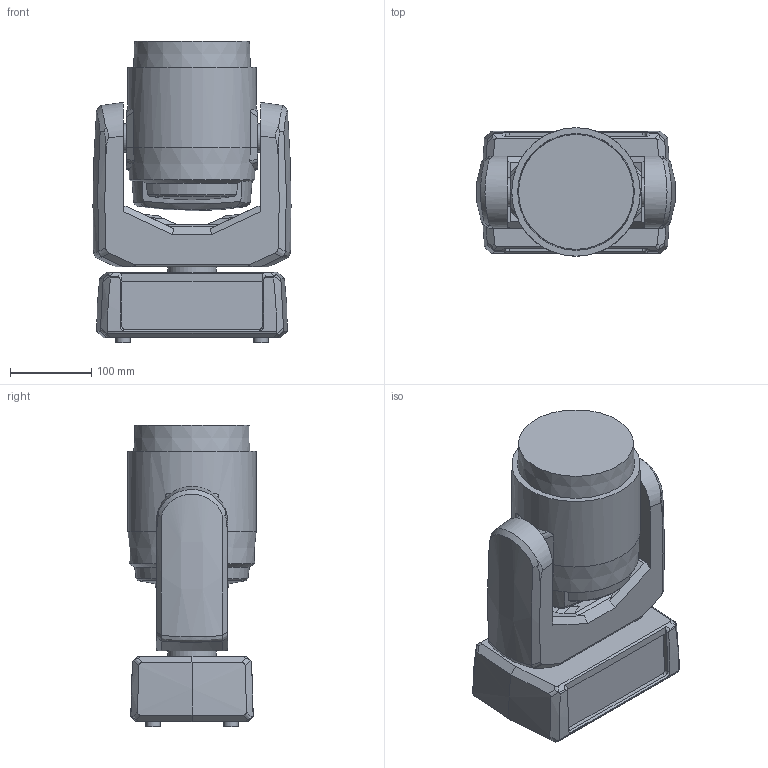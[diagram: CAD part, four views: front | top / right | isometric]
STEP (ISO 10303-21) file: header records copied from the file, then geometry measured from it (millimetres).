
FILE_DESCRIPTION(/* description */ ('Unknown'),/* implementation_level */ '2;1');
FILE_NAME(/* name */ '3D_Robin LEDBeam 200',/* time_stamp */ '2026-01-30T10:26:16+01:00',/* author */ ('vaclavek'),/* organization */ ('ROBE lighting s.r.o.'),/* preprocessor_version */ 'ST-DEVELOPER v20',/* originating_system */ 'Solid Edge',/* authorisation */ 'Unknown');
FILE_SCHEMA (('AUTOMOTIVE_DESIGN {1 0 10303 214 3 1 1}'));
Length unit declared in the file: millimetre
Products named in the file (4): 3D_Robin LEDBeam 200; Robin LEDBeam 200_base; Robin LEDBeam 200_arm; Robin LEDBeam 200_head
Assembly tree (3 placements, depth 2):
  3D_Robin LEDBeam 200
    Robin LEDBeam 200_base
    Robin LEDBeam 200_arm
    Robin LEDBeam 200_head
Bounding box: 244.42 x 158.5 x 372.5 mm (x, y, z)
Volume: 8316852.7 mm3; surface area: 392057.2 mm2
Topology: 3 solids, 3 shells, 205 faces, 559 edges, 368 vertices
Faces by surface type: bspline 82, plane 74, cylinder 33, cone 15, sphere 1
Full cylindrical faces by diameter (mm): 18 x4, 35 x2, 60 x1, 65 x1, 158.5 x1
Entity records: 8739 total; most frequent: CARTESIAN_POINT 4393, ORIENTED_EDGE 1076, DIRECTION 552, EDGE_CURVE 538, VERTEX_POINT 362, B_SPLINE_CURVE_WITH_KNOTS 304, FACE_BOUND 228, EDGE_LOOP 226
